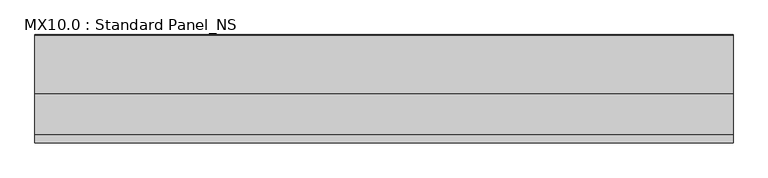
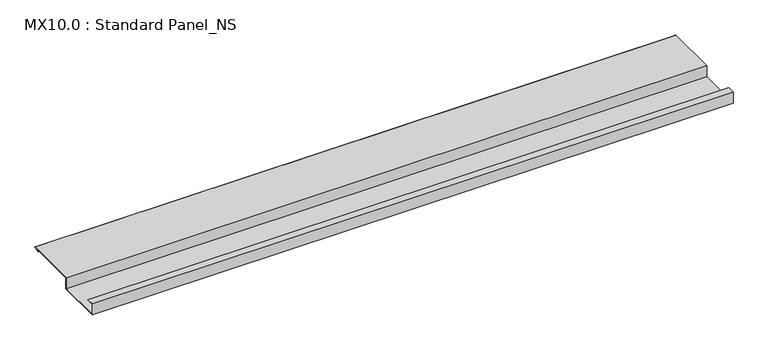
"""IFC4 building model written with IfcOpenShell, lengths in millimetres: proxy geometry, MX10.0 : Standard Panel_NS."""

from ifc_helpers import new_model, si_unit, point, frame, frame_2d, origin, place, context, project, spatial, polyline, circle_curve, trimmed, segment, composite_curve, outline, extrude, source, transform, mapped, element, save


def mx10_0_standard_panel_ns_1686077b(model_context):
    return source(origin(), model_context, "Body", "SweptSolid", [
        extrude(outline(composite_curve([segment(polyline([(0.0, 0.0), (25.0, 0.0), (25.0, -1.0), (1.0, -1.0), (1.0, -37.0), (149.0, -37.0), (149.0, 1.0), (325.0510156, 1.0)]), True, "CONTINUOUS"), segment(trimmed(circle_curve(frame_2d((324.3094696, -0.9153551)), 2.0538928), [point((325.0510156, 1.0))], [point((325.1748462, -2.778041))], False, "CARTESIAN"), True, "CONTINUOUS"), segment(polyline([(325.1748462, -2.778041), (308.7874714, -5.923107), (308.5989911, -4.94103), (324.8448691, -1.8231201)]), True, "CONTINUOUS"), segment(trimmed(circle_curve(frame_2d((324.3094696, -0.9153551)), 1.0538928), [point((324.8448691, -1.8231201))], [point((324.8317866, 0.0))], True, "CARTESIAN"), True, "CONTINUOUS"), segment(polyline([(324.8317866, 0.0), (150.0, 0.0), (150.0, -38.0), (0.0, -38.0), (0.0, 0.0)]), True, "CONTINUOUS")], self_intersect=False)), frame((0.0, 0.0, 0.0), z_axis=(1.0, 0.0, 0.0), x_axis=(0.0, 1.0, 0.0)), (0.0, 0.0, 1.0), 2100.0),
    ])


if __name__ == "__main__":
    model = new_model("IFC4")
    model_context = context("Model", 3, world=origin())
    ifc_project = project(units=[si_unit("LENGTHUNIT", "METRE", prefix="MILLI")], contexts=[model_context])
    site = spatial("IfcSite", under=ifc_project)
    building = spatial("IfcBuilding", under=site)
    placement = place(None, origin())
    mx10_0_standard_panel_ns_shape = mx10_0_standard_panel_ns_1686077b(model_context)
    element("IfcBuildingElementProxy", 1, Name="MX10.0 : Standard Panel_NS", ObjectType="MX10.0 : Standard Panel_NS", at=placement, inside=building, context=model_context, shape_type="MappedRepresentation", body=[
        mapped(mx10_0_standard_panel_ns_shape, transform((0.0, 0.0, 0.0), x_axis=(1.0, 0.0, 0.0), y_axis=(0.0, 1.0, 0.0), z_axis=(0.0, 0.0, 1.0))),
    ])
    save(model, "model.ifc")
